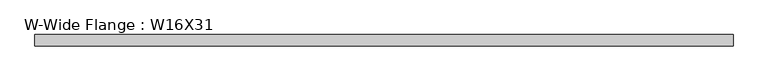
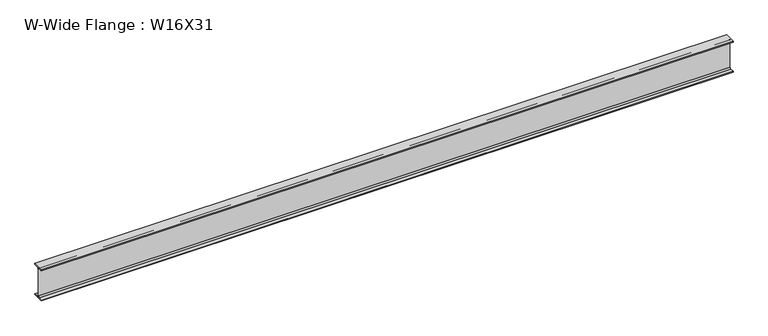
"""IFC4 building model written with IfcOpenShell, lengths in millimetres: beam geometry, W-Wide Flange : W16X31."""

from ifc_helpers import new_model, si_unit, point, frame, frame_2d, origin, place, context, project, spatial, polyline, circle_curve, trimmed, segment, composite_curve, outline, extrude, source, transform, mapped, element, save


def w_wide_flange_w16x31_1a0e2201(model_context):
    return source(origin(), model_context, "Body", "SweptSolid", [
        extrude(outline(composite_curve([segment(polyline([(70.231, -190.754), (70.231, -201.93), (-70.231, -201.93), (-70.231, -190.754), (-20.8915, -190.754)]), True, "CONTINUOUS"), segment(trimmed(circle_curve(frame_2d((-20.8915, -173.355)), 17.399), [point((-20.8915, -190.754))], [point((-3.4925, -173.355))], True, "CARTESIAN"), True, "CONTINUOUS"), segment(polyline([(-3.4925, -173.355), (-3.4925, 173.355)]), True, "CONTINUOUS"), segment(trimmed(circle_curve(frame_2d((-20.8915, 173.355)), 17.399), [point((-3.4925, 173.355))], [point((-20.8915, 190.754))], True, "CARTESIAN"), True, "CONTINUOUS"), segment(polyline([(-20.8915, 190.754), (-70.231, 190.754), (-70.231, 201.93), (70.231, 201.93), (70.231, 190.754), (20.8915, 190.754)]), True, "CONTINUOUS"), segment(trimmed(circle_curve(frame_2d((20.8915, 173.355)), 17.399), [point((20.8915, 190.754))], [point((3.4925, 173.355))], True, "CARTESIAN"), True, "CONTINUOUS"), segment(polyline([(3.4925, 173.355), (3.4925, -173.355)]), True, "CONTINUOUS"), segment(trimmed(circle_curve(frame_2d((20.8915, -173.355)), 17.399), [point((3.4925, -173.355))], [point((20.8915, -190.754))], True, "CARTESIAN"), True, "CONTINUOUS"), segment(polyline([(20.8915, -190.754), (70.231, -190.754)]), True, "CONTINUOUS")], self_intersect=False)), frame((-4213.6230758, 0.0, 0.0), z_axis=(1.0, 0.0, 0.0), x_axis=(0.0, 1.0, 0.0)), (0.0, 0.0, 1.0), 8543.7051516),
    ])


if __name__ == "__main__":
    model = new_model("IFC4")
    model_context = context("Model", 3, world=origin())
    ifc_project = project(units=[si_unit("LENGTHUNIT", "METRE", prefix="MILLI")], contexts=[model_context])
    site = spatial("IfcSite", under=ifc_project)
    building = spatial("IfcBuilding", under=site)
    placement = place(None, origin())
    w_wide_flange_w16x31_shape = w_wide_flange_w16x31_1a0e2201(model_context)
    element("IfcBeam", 1, ObjectType="W-Wide Flange : W16X31", at=placement, inside=building, context=model_context, shape_type="MappedRepresentation", body=[
        mapped(w_wide_flange_w16x31_shape, transform((0.0, 0.0, 0.0), x_axis=(1.0, 0.0, 0.0), y_axis=(0.0, 1.0, 0.0), z_axis=(0.0, 0.0, 1.0))),
    ])
    save(model, "model.ifc")
